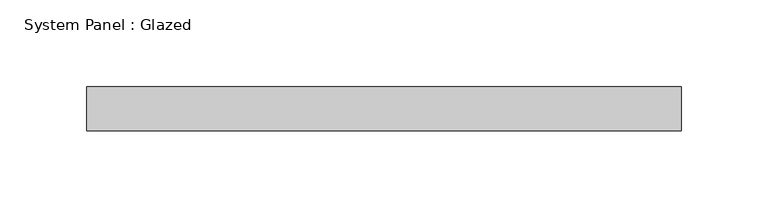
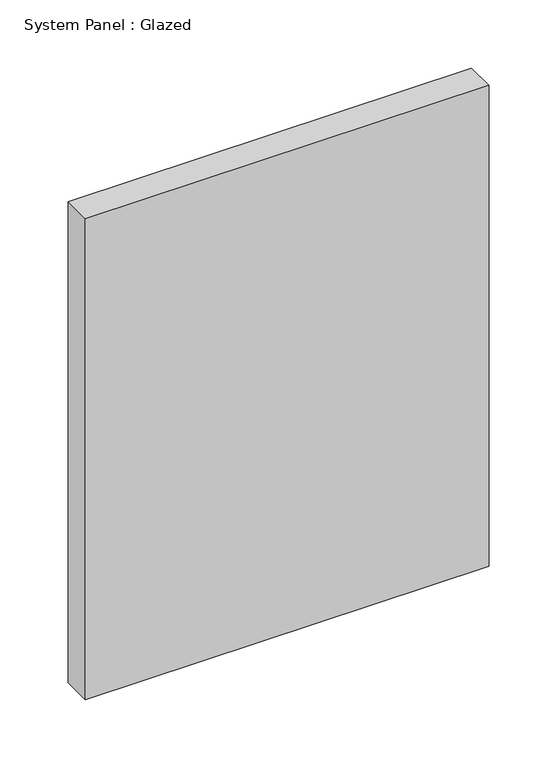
"""IFC4 building model written with IfcOpenShell, lengths in millimetres: plate geometry, System Panel : Glazed."""

from ifc_helpers import new_model, si_unit, origin, origin_with_axes, place, context, project, spatial, polyline, outline, extrude, source, transform, mapped, element, save


def system_panel_glazed_dc7be1f0(model_context):
    return source(origin(), model_context, "Body", "SweptSolid", [
        extrude(outline(polyline([(171.4499998, -44.45), (-171.4499998, -44.45), (-171.4499998, -19.05), (171.4499998, -19.05), (171.4499998, -44.45)])), origin_with_axes(), (0.0, 0.0, 1.0), 431.8),
    ])


if __name__ == "__main__":
    model = new_model("IFC4")
    model_context = context("Model", 3, world=origin())
    ifc_project = project(units=[si_unit("LENGTHUNIT", "METRE", prefix="MILLI")], contexts=[model_context])
    site = spatial("IfcSite", under=ifc_project)
    building = spatial("IfcBuilding", under=site)
    placement = place(None, origin())
    system_panel_glazed_shape = system_panel_glazed_dc7be1f0(model_context)
    element("IfcPlate", 1, ObjectType="System Panel : Glazed", at=placement, inside=building, context=model_context, shape_type="MappedRepresentation", body=[
        mapped(system_panel_glazed_shape, transform((0.0, 0.0, 0.0), x_axis=(1.0, 0.0, 0.0), y_axis=(0.0, 1.0, 0.0), z_axis=(0.0, 0.0, 1.0))),
    ])
    save(model, "model.ifc")
